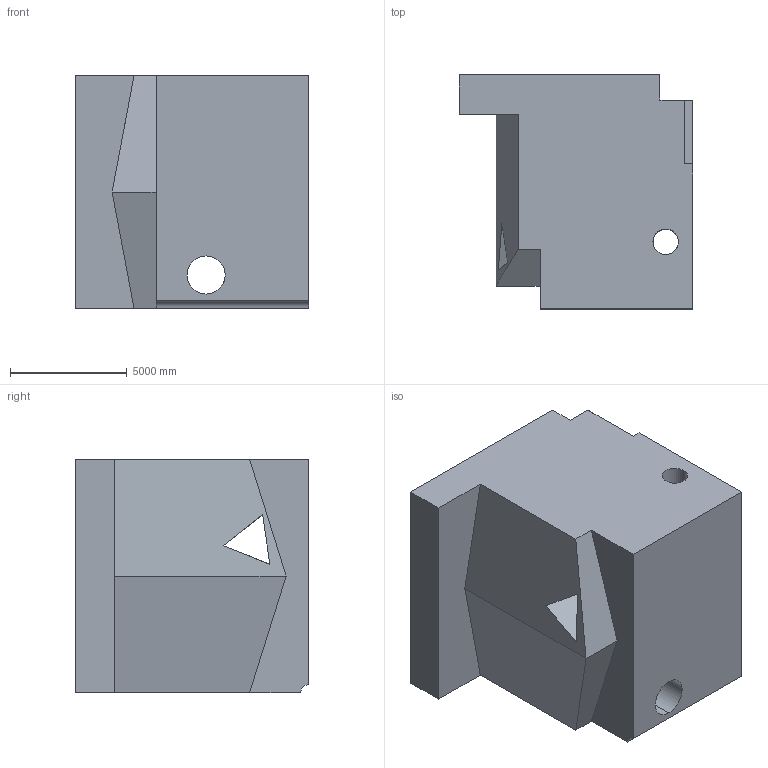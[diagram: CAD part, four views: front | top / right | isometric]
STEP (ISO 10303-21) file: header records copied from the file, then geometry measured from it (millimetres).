
FILE_DESCRIPTION (( 'STEP AP203' ), '1' );
FILE_NAME ('191.STEP', '2022-09-06T12:54:27', ( 'user' ), ( '' ), 'SwSTEP 2.0', 'SolidWorks 2021', '' );
FILE_SCHEMA (( 'CONFIG_CONTROL_DESIGN' ));
Length unit declared in the file: centimetre
Products named in the file (1): 191
Bounding box: 10000 x 10000 x 10000 mm (x, y, z)
Volume: 732306396055.5 mm3; surface area: 691964095.1 mm2
Topology: 1 solids, 1 shells, 39 faces, 110 edges, 73 vertices
Faces by surface type: plane 27, cylinder 12
Entity records: 1363 total; most frequent: CARTESIAN_POINT 235, ORIENTED_EDGE 220, DIRECTION 212, EDGE_CURVE 110, VECTOR 80, LINE 80, VERTEX_POINT 73, AXIS2_PLACEMENT_3D 66
